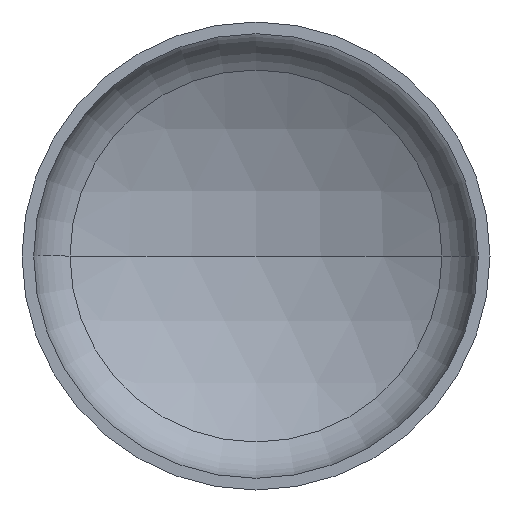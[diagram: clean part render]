
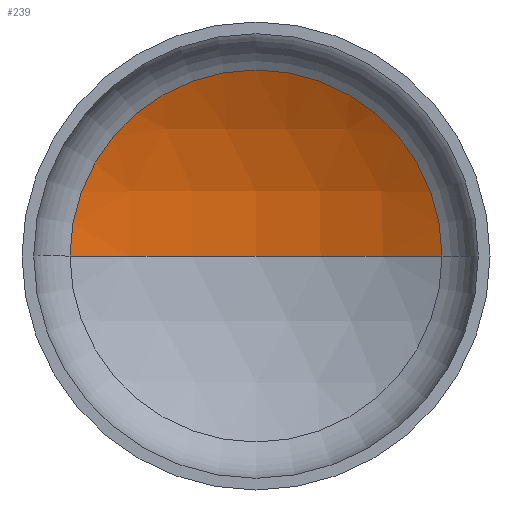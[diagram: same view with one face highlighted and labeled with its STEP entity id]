
A CAD part, front view. The second image highlights one B-rep face of the part: STEP entity #239.
In plain terms, the highlighted spherical face has radius 1920 mm.
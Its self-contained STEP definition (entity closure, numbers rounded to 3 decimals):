
#12 = CARTESIAN_POINT ( 'NONE',  ( 953.806, 441.116, 0. ) ) ;
#14 = AXIS2_PLACEMENT_3D ( 'NONE', #368, #296, #125 ) ;
#15 = AXIS2_PLACEMENT_3D ( 'NONE', #120, #115, #119 ) ;
#18 = AXIS2_PLACEMENT_3D ( 'NONE', #84, #85, #114 ) ;
#35 = AXIS2_PLACEMENT_3D ( 'NONE', #236, #128, #66 ) ;
#66 = DIRECTION ( 'NONE',  ( -1., 0., 0. ) ) ;
#84 = CARTESIAN_POINT ( 'NONE',  ( 0., 441.116, 0. ) ) ;
#85 = DIRECTION ( 'NONE',  ( 0., -1., 0. ) ) ;
#99 = CARTESIAN_POINT ( 'NONE',  ( -953.806, 441.116, 0. ) ) ;
#106 = CIRCLE ( 'NONE', #15, 1920. ) ;
#114 = DIRECTION ( 'NONE',  ( 1., 0., 0. ) ) ;
#115 = DIRECTION ( 'NONE',  ( 0., 0., -1. ) ) ;
#119 = DIRECTION ( 'NONE',  ( -1., 0., 0. ) ) ;
#120 = CARTESIAN_POINT ( 'NONE',  ( 0., -1225.214, 0. ) ) ;
#122 = SPHERICAL_SURFACE ( 'NONE', #35, 1920. ) ;
#125 = DIRECTION ( 'NONE',  ( 1., 0., 0. ) ) ;
#128 = DIRECTION ( 'NONE',  ( 0., 0., -1. ) ) ;
#134 = VERTEX_POINT ( 'NONE', #263 ) ;
#217 = FACE_OUTER_BOUND ( 'NONE', #342, .T. ) ;
#218 = ORIENTED_EDGE ( 'NONE', *, *, #321, .F. ) ;
#219 = VERTEX_POINT ( 'NONE', #99 ) ;
#224 = VERTEX_POINT ( 'NONE', #12 ) ;
#236 = CARTESIAN_POINT ( 'NONE',  ( 0., -1225.214, 0. ) ) ;
#239 = ADVANCED_FACE ( 'NONE', ( #217 ), #122, .F. ) ;
#263 = CARTESIAN_POINT ( 'NONE',  ( 0., 694.786, 0. ) ) ;
#295 = ORIENTED_EDGE ( 'NONE', *, *, #319, .T. ) ;
#296 = DIRECTION ( 'NONE',  ( 0., 0., 1. ) ) ;
#312 = EDGE_CURVE ( 'NONE', #224, #219, #354, .T. ) ;
#319 = EDGE_CURVE ( 'NONE', #134, #224, #106, .T. ) ;
#321 = EDGE_CURVE ( 'NONE', #134, #219, #406, .T. ) ;
#336 = ORIENTED_EDGE ( 'NONE', *, *, #312, .T. ) ;
#342 = EDGE_LOOP ( 'NONE', ( #218, #295, #336 ) ) ;
#354 = CIRCLE ( 'NONE', #18, 953.806 ) ;
#368 = CARTESIAN_POINT ( 'NONE',  ( 0., -1225.214, 0. ) ) ;
#406 = CIRCLE ( 'NONE', #14, 1920. ) ;
